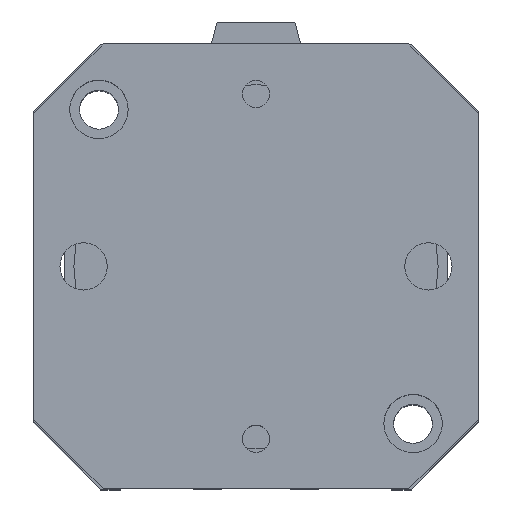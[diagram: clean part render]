
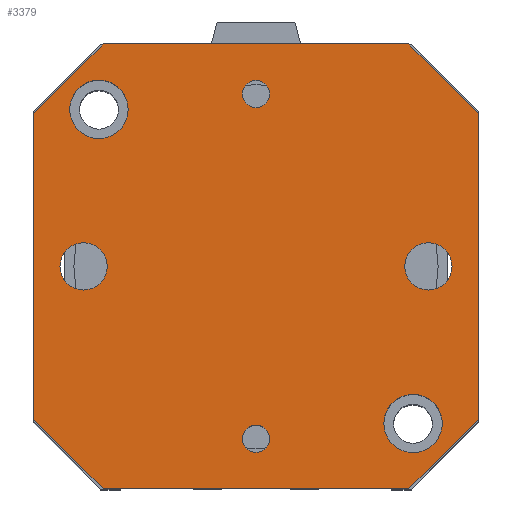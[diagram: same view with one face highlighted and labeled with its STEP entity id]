
A CAD part, top view. The second image highlights one B-rep face of the part: STEP entity #3379.
In plain terms, the highlighted planar face has unit normal (0, 0, 1).
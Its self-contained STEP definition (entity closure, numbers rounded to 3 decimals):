
#265=LINE('',#5630,#519);
#267=LINE('',#5634,#521);
#269=LINE('',#5638,#523);
#271=LINE('',#5642,#525);
#273=LINE('',#5646,#527);
#275=LINE('',#5650,#529);
#277=LINE('',#5654,#531);
#279=LINE('',#5657,#533);
#519=VECTOR('',#4681,55.);
#521=VECTOR('',#4685,17.678);
#523=VECTOR('',#4689,55.);
#525=VECTOR('',#4693,17.678);
#527=VECTOR('',#4697,55.);
#529=VECTOR('',#4701,17.678);
#531=VECTOR('',#4705,55.);
#533=VECTOR('',#4709,17.678);
#627=PLANE('',#3743);
#716=FACE_BOUND('',#1138,.T.);
#717=FACE_BOUND('',#1139,.T.);
#718=FACE_BOUND('',#1140,.T.);
#719=FACE_BOUND('',#1141,.T.);
#720=FACE_BOUND('',#1142,.T.);
#721=FACE_BOUND('',#1143,.T.);
#722=FACE_BOUND('',#1144,.T.);
#1138=EDGE_LOOP('',(#2914));
#1139=EDGE_LOOP('',(#2915));
#1140=EDGE_LOOP('',(#2916));
#1141=EDGE_LOOP('',(#2917));
#1142=EDGE_LOOP('',(#2918));
#1143=EDGE_LOOP('',(#2919));
#1144=EDGE_LOOP('',(#2920,#2921,#2922,#2923,#2924,#2925,#2926,#2927));
#1309=CIRCLE('',#3699,2.459);
#1311=CIRCLE('',#3702,2.459);
#1316=CIRCLE('',#3710,4.25);
#1320=CIRCLE('',#3717,4.25);
#1329=CIRCLE('',#3732,5.25);
#1330=CIRCLE('',#3734,5.25);
#1601=VERTEX_POINT('',#5548);
#1603=VERTEX_POINT('',#5553);
#1608=VERTEX_POINT('',#5566);
#1612=VERTEX_POINT('',#5577);
#1631=VERTEX_POINT('',#5621);
#1632=VERTEX_POINT('',#5624);
#1633=VERTEX_POINT('',#5627);
#1634=VERTEX_POINT('',#5629);
#1635=VERTEX_POINT('',#5633);
#1636=VERTEX_POINT('',#5637);
#1637=VERTEX_POINT('',#5641);
#1638=VERTEX_POINT('',#5645);
#1639=VERTEX_POINT('',#5649);
#1640=VERTEX_POINT('',#5653);
#2025=EDGE_CURVE('',#1601,#1601,#1309,.T.);
#2027=EDGE_CURVE('',#1603,#1603,#1311,.T.);
#2032=EDGE_CURVE('',#1608,#1608,#1316,.T.);
#2036=EDGE_CURVE('',#1612,#1612,#1320,.T.);
#2055=EDGE_CURVE('',#1631,#1631,#1329,.T.);
#2056=EDGE_CURVE('',#1632,#1632,#1330,.T.);
#2058=EDGE_CURVE('',#1634,#1633,#265,.T.);
#2060=EDGE_CURVE('',#1635,#1634,#267,.T.);
#2062=EDGE_CURVE('',#1636,#1635,#269,.T.);
#2064=EDGE_CURVE('',#1637,#1636,#271,.T.);
#2066=EDGE_CURVE('',#1638,#1637,#273,.T.);
#2068=EDGE_CURVE('',#1639,#1638,#275,.T.);
#2070=EDGE_CURVE('',#1640,#1639,#277,.T.);
#2072=EDGE_CURVE('',#1633,#1640,#279,.T.);
#2914=ORIENTED_EDGE('',*,*,#2025,.T.);
#2915=ORIENTED_EDGE('',*,*,#2027,.T.);
#2916=ORIENTED_EDGE('',*,*,#2032,.T.);
#2917=ORIENTED_EDGE('',*,*,#2036,.T.);
#2918=ORIENTED_EDGE('',*,*,#2055,.T.);
#2919=ORIENTED_EDGE('',*,*,#2056,.T.);
#2920=ORIENTED_EDGE('',*,*,#2072,.T.);
#2921=ORIENTED_EDGE('',*,*,#2070,.T.);
#2922=ORIENTED_EDGE('',*,*,#2068,.T.);
#2923=ORIENTED_EDGE('',*,*,#2066,.T.);
#2924=ORIENTED_EDGE('',*,*,#2064,.T.);
#2925=ORIENTED_EDGE('',*,*,#2062,.T.);
#2926=ORIENTED_EDGE('',*,*,#2060,.T.);
#2927=ORIENTED_EDGE('',*,*,#2058,.T.);
#3379=ADVANCED_FACE('',(#716,#717,#718,#719,#720,#721,#722),#627,.T.);
#3699=AXIS2_PLACEMENT_3D('',#5549,#4596,#4597);
#3702=AXIS2_PLACEMENT_3D('',#5554,#4602,#4603);
#3710=AXIS2_PLACEMENT_3D('',#5567,#4618,#4619);
#3717=AXIS2_PLACEMENT_3D('',#5578,#4632,#4633);
#3732=AXIS2_PLACEMENT_3D('',#5622,#4672,#4673);
#3734=AXIS2_PLACEMENT_3D('',#5625,#4676,#4677);
#3743=AXIS2_PLACEMENT_3D('',#5658,#4710,#4711);
#4596=DIRECTION('center_axis',(0.,0.,-1.));
#4597=DIRECTION('ref_axis',(1.,0.,0.));
#4602=DIRECTION('center_axis',(0.,0.,-1.));
#4603=DIRECTION('ref_axis',(1.,0.,0.));
#4618=DIRECTION('center_axis',(0.,0.,-1.));
#4619=DIRECTION('ref_axis',(1.,0.,0.));
#4632=DIRECTION('center_axis',(0.,0.,-1.));
#4633=DIRECTION('ref_axis',(1.,0.,0.));
#4672=DIRECTION('center_axis',(0.,0.,-1.));
#4673=DIRECTION('ref_axis',(-1.,0.,0.));
#4676=DIRECTION('center_axis',(0.,0.,-1.));
#4677=DIRECTION('ref_axis',(-1.,0.,0.));
#4681=DIRECTION('',(0.,1.,0.));
#4685=DIRECTION('',(0.707,0.707,0.));
#4689=DIRECTION('',(1.,0.,0.));
#4693=DIRECTION('',(0.707,-0.707,0.));
#4697=DIRECTION('',(0.,-1.,0.));
#4701=DIRECTION('',(-0.707,-0.707,0.));
#4705=DIRECTION('',(-1.,0.,0.));
#4709=DIRECTION('',(-0.707,0.707,0.));
#4710=DIRECTION('center_axis',(0.,0.,1.));
#4711=DIRECTION('ref_axis',(1.,0.,0.));
#5548=CARTESIAN_POINT('',(-33.459,0.,92.25));
#5549=CARTESIAN_POINT('Origin',(-31.,0.,92.25));
#5553=CARTESIAN_POINT('',(28.542,0.,92.25));
#5554=CARTESIAN_POINT('Origin',(31.,0.,92.25));
#5566=CARTESIAN_POINT('',(-4.25,31.,92.25));
#5567=CARTESIAN_POINT('Origin',(0.,31.,92.25));
#5577=CARTESIAN_POINT('',(-4.25,-31.,92.25));
#5578=CARTESIAN_POINT('Origin',(0.,-31.,92.25));
#5621=CARTESIAN_POINT('',(-23.,-28.25,92.25));
#5622=CARTESIAN_POINT('Origin',(-28.25,-28.25,92.25));
#5624=CARTESIAN_POINT('',(33.5,28.25,92.25));
#5625=CARTESIAN_POINT('Origin',(28.25,28.25,92.25));
#5627=CARTESIAN_POINT('',(40.,27.5,92.25));
#5629=CARTESIAN_POINT('',(40.,-27.5,92.25));
#5630=CARTESIAN_POINT('',(40.,27.5,92.25));
#5633=CARTESIAN_POINT('',(27.5,-40.,92.25));
#5634=CARTESIAN_POINT('',(40.,-27.5,92.25));
#5637=CARTESIAN_POINT('',(-27.5,-40.,92.25));
#5638=CARTESIAN_POINT('',(27.5,-40.,92.25));
#5641=CARTESIAN_POINT('',(-40.,-27.5,92.25));
#5642=CARTESIAN_POINT('',(-27.5,-40.,92.25));
#5645=CARTESIAN_POINT('',(-40.,27.5,92.25));
#5646=CARTESIAN_POINT('',(-40.,-27.5,92.25));
#5649=CARTESIAN_POINT('',(-27.5,40.,92.25));
#5650=CARTESIAN_POINT('',(-40.,27.5,92.25));
#5653=CARTESIAN_POINT('',(27.5,40.,92.25));
#5654=CARTESIAN_POINT('',(-27.5,40.,92.25));
#5657=CARTESIAN_POINT('',(27.5,40.,92.25));
#5658=CARTESIAN_POINT('Origin',(0.,0.,
92.25));
